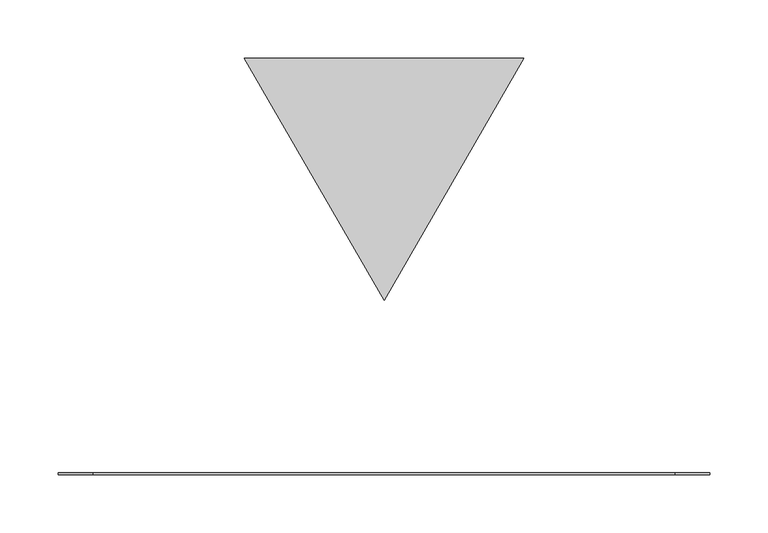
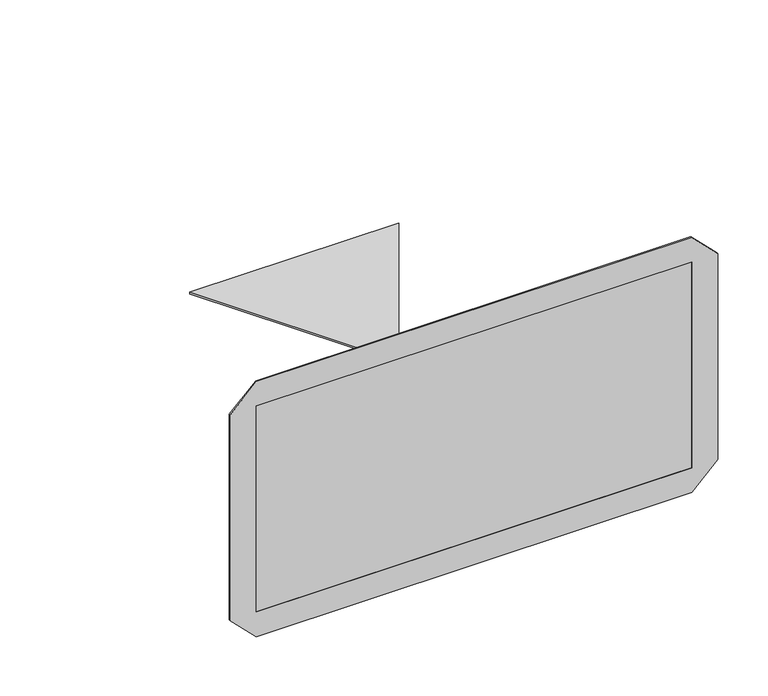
"""IFC4 building model written with IfcOpenShell, lengths in millimetres: air terminal geometry, ADSK_ПВК_Сетка прямоугольная защитная Вытяжная : Сетка 500х250."""

import ifcopenshell
import ifcopenshell.guid

model = None  # the IFC model being written
_history = None  # IfcOwnerHistory: only IFC2X3 demands one
_inside = {}  # id of a spatial element -> (the spatial element, [elements in it])
_under = {}  # id of a project, library or spatial element -> (it, [spatial elements below it])
_declared = {}  # id of a project -> (the project, [libraries it declares])
_typed = {}  # id of a type object -> (the type object, [elements of that type])
_made_of = {}  # id of a material, layer set ... -> (it, [elements and type objects made of it])


def new_model(schema):
    """Start an empty IFC model of exactly this schema.

    Asked for "IFC4X3", IfcOpenShell would pick the latest addendum, in which some entities
    have other attributes; the version numbers below select the first issue.
    IFC2X3 requires an IfcOwnerHistory on every rooted entity: one is made here for all.
    """
    global model, _history
    if schema == "IFC4X3":
        model = ifcopenshell.file(schema_version=(4, 3, 0, 0))
    else:
        model = ifcopenshell.file(schema=schema)
    _inside.clear()
    _under.clear()
    _declared.clear()
    _typed.clear()
    _made_of.clear()
    _history = None
    if model.schema == "IFC2X3":
        org = make("IfcOrganization", Name="unknown")
        user = make(
            "IfcPersonAndOrganization",
            ThePerson=make("IfcPerson", FamilyName="unknown"),
            TheOrganization=org,
        )
        app = make(
            "IfcApplication",
            ApplicationDeveloper=org,
            Version="unknown",
            ApplicationFullName="unknown",
            ApplicationIdentifier="unknown",
        )
        _history = make(
            "IfcOwnerHistory",
            OwningUser=user,
            OwningApplication=app,
            ChangeAction="ADDED",
            CreationDate=0,
        )
    return model


def make(cls, **values):
    """One entity of the class cls with the attributes given. An attribute that is None is left unset."""
    return model.create_entity(
        cls, **{name: value for name, value in values.items() if value is not None}
    )


def rooted(cls, **values):
    """An entity with a GlobalId (a new one), such as an element, a storey or a relation."""
    return make(cls, GlobalId=ifcopenshell.guid.new(), OwnerHistory=_history, **values)


def si_unit(unit_type, name, prefix=None):
    """IfcSIUnit, for example si_unit("LENGTHUNIT", "METRE", prefix="MILLI")."""
    return make("IfcSIUnit", UnitType=unit_type, Prefix=prefix, Name=name)


def assignment(units):
    """IfcUnitAssignment: the units of a project."""
    return None if units is None else make("IfcUnitAssignment", Units=units)


def point(xyz):
    """IfcCartesianPoint."""
    return None if xyz is None else make("IfcCartesianPoint", Coordinates=xyz)


def direction(xyz):
    """IfcDirection."""
    return None if xyz is None else make("IfcDirection", DirectionRatios=xyz)


def frame(location, z_axis=None, x_axis=None):
    """IfcAxis2Placement3D, a coordinate frame: its origin and axes. An axis left out is left unset."""
    return make(
        "IfcAxis2Placement3D",
        Location=point(location),
        Axis=direction(z_axis),
        RefDirection=direction(x_axis),
    )


def origin():
    """The frame at (0, 0, 0) with its axes left unset."""
    return frame((0.0, 0.0, 0.0))


def place(relative_to, where):
    """IfcLocalPlacement: puts the frame where relative to a parent placement (None: the world)."""
    return make(
        "IfcLocalPlacement", PlacementRelTo=relative_to, RelativePlacement=where
    )


def context(
    kind, dimensions, precision=None, world=None, true_north=None, identifier=None
):
    """IfcGeometricRepresentationContext, for example the 3D "Model" context."""
    return make(
        "IfcGeometricRepresentationContext",
        ContextIdentifier=identifier,
        ContextType=kind,
        CoordinateSpaceDimension=dimensions,
        Precision=precision,
        WorldCoordinateSystem=world,
        TrueNorth=true_north,
    )


def project(units=None, contexts=None):
    """IfcProject with its units and contexts."""
    return rooted(
        "IfcProject",
        Name="project",
        RepresentationContexts=contexts,
        UnitsInContext=assignment(units),
    )


def spatial(cls, under=None, at=None, **own):
    """A site, building, storey or space (cls), placed at a placement, below another one or the project."""
    s = rooted(cls, ObjectPlacement=at, **own)
    if under is not None:
        _under.setdefault(under.id(), (under, []))[1].append(s)
    return s


def polyline(points):
    """IfcPolyline through the points."""
    return make("IfcPolyline", Points=[point(p) for p in points])


def outline(outer, holes=None, kind="AREA"):
    """IfcArbitraryClosedProfileDef: a profile drawn as a closed curve; with holes, ...WithVoids."""
    if holes is None:
        return make("IfcArbitraryClosedProfileDef", ProfileType=kind, OuterCurve=outer)
    return make(
        "IfcArbitraryProfileDefWithVoids",
        ProfileType=kind,
        OuterCurve=outer,
        InnerCurves=holes,
    )


def extrude(swept, where, along, depth):
    """IfcExtrudedAreaSolid: the profile swept, set in the frame where, extruded along a direction by depth."""
    return make(
        "IfcExtrudedAreaSolid",
        SweptArea=swept,
        Position=where,
        ExtrudedDirection=direction(along),
        Depth=depth,
    )


def shape(context_of_items, identifier, shape_type, items):
    """IfcShapeRepresentation: the items that make up one representation, for example the "Body"."""
    return make(
        "IfcShapeRepresentation",
        ContextOfItems=context_of_items,
        RepresentationIdentifier=identifier,
        RepresentationType=shape_type,
        Items=items,
    )


def source(mapping_origin, context_of_items, identifier, shape_type, items):
    """IfcRepresentationMap: a shape defined once, which mapped items show again and again."""
    return make(
        "IfcRepresentationMap",
        MappingOrigin=mapping_origin,
        MappedRepresentation=shape(context_of_items, identifier, shape_type, items),
    )


def transform(
    local_origin,
    x_axis=None,
    y_axis=None,
    z_axis=None,
    scale=None,
    scale2=None,
    scale3=None,
    uniform=True,
):
    """IfcCartesianTransformationOperator3D, or its non-uniform kind. x_axis, y_axis, z_axis: its Axis1, 2, 3."""
    if uniform:
        return make(
            "IfcCartesianTransformationOperator3D",
            Axis1=direction(x_axis),
            Axis2=direction(y_axis),
            LocalOrigin=point(local_origin),
            Scale=scale,
            Axis3=direction(z_axis),
        )
    return make(
        "IfcCartesianTransformationOperator3DnonUniform",
        Axis1=direction(x_axis),
        Axis2=direction(y_axis),
        LocalOrigin=point(local_origin),
        Scale=scale,
        Axis3=direction(z_axis),
        Scale2=scale2,
        Scale3=scale3,
    )


def mapped(mapping_source, mapping_target):
    """IfcMappedItem: shows the shape of a source again, moved by a transform."""
    return make(
        "IfcMappedItem", MappingSource=mapping_source, MappingTarget=mapping_target
    )


def made_of(thing, what):
    """Note that an element or type object is made of a material, layer set ...; save() writes the relation."""
    if what is not None:
        _made_of.setdefault(what.id(), (what, []))[1].append(thing)
    return thing


def element(
    cls,
    number,
    at=None,
    inside=None,
    cuts=None,
    type_object=None,
    material=None,
    context=None,
    identifier="Body",
    shape_type=None,
    held_by="IfcProductDefinitionShape",
    body=None,
    shapes=None,
    **own,
):
    """One element of the class cls, such as IfcWall. Its Tag is "e" and its number.

    at: its placement. inside: the storey or other place that contains it. cuts: it is an
    opening in that element (IfcRelVoidsElement). A single representation is given by context,
    identifier, shape_type and body (its items); several are given by shapes. held_by: the class
    of the entity that holds the representations. save() writes the other relations.
    """
    e = rooted(cls, Tag="e%d" % number, ObjectPlacement=at, **own)
    if body is not None:
        shapes = [shape(context, identifier, shape_type, body)]
    if shapes is not None:
        e.Representation = make(held_by, Representations=shapes)
    if inside is not None:
        _inside.setdefault(inside.id(), (inside, []))[1].append(e)
    if cuts is not None:
        rooted(
            "IfcRelVoidsElement", RelatingBuildingElement=cuts, RelatedOpeningElement=e
        )
    if type_object is not None:
        _typed.setdefault(type_object.id(), (type_object, []))[1].append(e)
    return made_of(e, material)


def aggregate(whole, parts):
    """IfcRelAggregates: a whole, such as a stair, and the parts it consists of."""
    return rooted("IfcRelAggregates", RelatingObject=whole, RelatedObjects=parts)


def save(model, path):
    """Write the relations noted so far, then the file.

    IfcRelAggregates (storeys below a building ...), IfcRelContainedInSpatialStructure (elements
    in a storey), IfcRelDefinesByType, IfcRelAssociatesMaterial and IfcRelDeclares: one each for
    every whole, place, type object, material and project.
    """
    for whole, parts in _under.values():
        aggregate(whole, parts)
    for where, things in _inside.values():
        rooted(
            "IfcRelContainedInSpatialStructure",
            RelatedElements=things,
            RelatingStructure=where,
        )
    for kind, things in _typed.values():
        rooted("IfcRelDefinesByType", RelatedObjects=things, RelatingType=kind)
    for what, things in _made_of.values():
        rooted("IfcRelAssociatesMaterial", RelatedObjects=things, RelatingMaterial=what)
    for by, libraries in _declared.values():
        rooted("IfcRelDeclares", RelatingContext=by, RelatedDefinitions=libraries)
    model.write(path)


def air_terminal_c7000286(model_context):
    return source(origin(), model_context, "Body", "SweptSolid", [
        extrude(outline(polyline([(-120.0, 357.8460969), (0.0, 357.8460969), (120.0, 357.8460969), (0.0, 150.0), (-120.0, 357.8460969)])), frame((0.0, 0.0, -1.0), z_axis=(0.0, 0.0, 1.0), x_axis=(1.0, 0.0, 0.0)), (0.0, 0.0, 1.0), 2.0),
        extrude(outline(polyline([(155.0, 250.0), (155.0, -250.0), (125.0, -280.0), (-125.0, -280.0), (-155.0, -250.0), (-155.0, 250.0), (-125.0, 280.0), (125.0, 280.0), (155.0, 250.0)]), holes=[polyline([(125.0, 250.0), (-125.0, 250.0), (-125.0, -250.0), (125.0, -250.0), (125.0, 250.0)])]), frame((0.0, 0.0, 0.0), z_axis=(0.0, 1.0, 0.0), x_axis=(0.0, 0.0, 1.0)), (0.0, 0.0, 1.0), 1.5),
        extrude(outline(polyline([(250.0, 0.0), (-250.0, 0.0), (-250.0, 1.5), (250.0, 1.5), (250.0, 0.0)])), frame((0.0, 0.0, -125.0), z_axis=(0.0, 0.0, 1.0), x_axis=(1.0, 0.0, 0.0)), (0.0, 0.0, 1.0), 250.0),
    ])


if __name__ == "__main__":
    model = new_model("IFC4")
    model_context = context("Model", 3, world=origin())
    ifc_project = project(units=[si_unit("LENGTHUNIT", "METRE", prefix="MILLI")], contexts=[model_context])
    site = spatial("IfcSite", under=ifc_project)
    building = spatial("IfcBuilding", under=site)
    placement = place(None, origin())
    air_terminal_shape = air_terminal_c7000286(model_context)
    element("IfcAirTerminal", 1, ObjectType="ADSK_ПВК_Сетка прямоугольная защитная Вытяжная : Сетка 500х250", at=placement, inside=building, context=model_context, shape_type="MappedRepresentation", body=[
        mapped(air_terminal_shape, transform((0.0, 0.0, 0.0), x_axis=(1.0, 0.0, 0.0), y_axis=(0.0, 1.0, 0.0), z_axis=(0.0, 0.0, 1.0))),
    ])
    save(model, "model.ifc")
